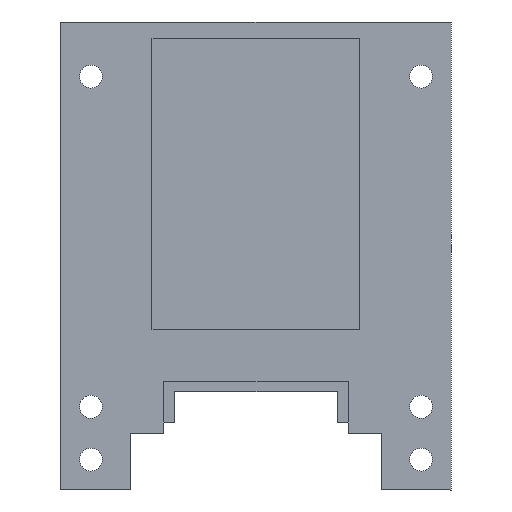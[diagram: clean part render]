
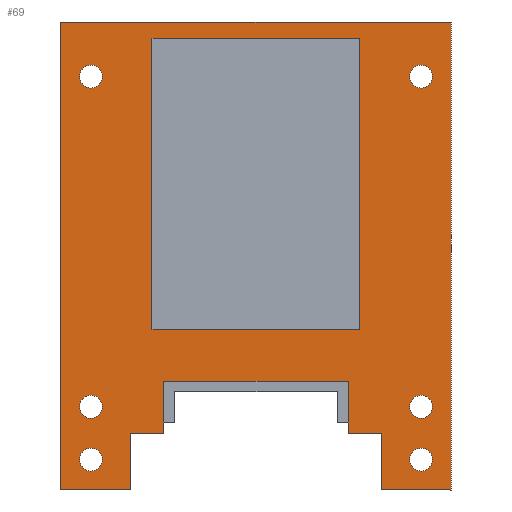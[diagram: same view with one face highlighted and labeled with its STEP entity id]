
A CAD part, front view. The second image highlights one B-rep face of the part: STEP entity #69.
In plain terms, the highlighted planar face has unit normal (0, -1, 0).
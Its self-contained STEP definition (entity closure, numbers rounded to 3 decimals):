
#69=ADVANCED_FACE('',(#181,#182,#183,#184,#185,#186,#187,#125),#565,.T.);
#125=FACE_OUTER_BOUND('',#204,.F.);
#181=FACE_BOUND('',#197,.F.);
#182=FACE_BOUND('',#198,.F.);
#183=FACE_BOUND('',#199,.F.);
#184=FACE_BOUND('',#200,.F.);
#185=FACE_BOUND('',#201,.F.);
#186=FACE_BOUND('',#202,.F.);
#187=FACE_BOUND('',#203,.F.);
#197=EDGE_LOOP('',(#269,#270));
#198=EDGE_LOOP('',(#271,#272));
#199=EDGE_LOOP('',(#273,#274));
#200=EDGE_LOOP('',(#275,#276));
#201=EDGE_LOOP('',(#277,#278));
#202=EDGE_LOOP('',(#279,#280));
#203=EDGE_LOOP('',(#281,#282,#283,#284));
#204=EDGE_LOOP('',(#285,#286,#287,#288,#289,#290,#291,#292,#293,#294,#295,
#296));
#269=ORIENTED_EDGE('',*,*,#850,.T.);
#270=ORIENTED_EDGE('',*,*,#848,.T.);
#271=ORIENTED_EDGE('',*,*,#858,.T.);
#272=ORIENTED_EDGE('',*,*,#856,.T.);
#273=ORIENTED_EDGE('',*,*,#866,.T.);
#274=ORIENTED_EDGE('',*,*,#864,.T.);
#275=ORIENTED_EDGE('',*,*,#870,.T.);
#276=ORIENTED_EDGE('',*,*,#868,.T.);
#277=ORIENTED_EDGE('',*,*,#862,.T.);
#278=ORIENTED_EDGE('',*,*,#860,.T.);
#279=ORIENTED_EDGE('',*,*,#854,.T.);
#280=ORIENTED_EDGE('',*,*,#852,.T.);
#281=ORIENTED_EDGE('',*,*,#833,.T.);
#282=ORIENTED_EDGE('',*,*,#834,.T.);
#283=ORIENTED_EDGE('',*,*,#835,.T.);
#284=ORIENTED_EDGE('',*,*,#832,.T.);
#285=ORIENTED_EDGE('',*,*,#872,.T.);
#286=ORIENTED_EDGE('',*,*,#883,.T.);
#287=ORIENTED_EDGE('',*,*,#882,.T.);
#288=ORIENTED_EDGE('',*,*,#881,.T.);
#289=ORIENTED_EDGE('',*,*,#880,.T.);
#290=ORIENTED_EDGE('',*,*,#879,.T.);
#291=ORIENTED_EDGE('',*,*,#878,.T.);
#292=ORIENTED_EDGE('',*,*,#877,.T.);
#293=ORIENTED_EDGE('',*,*,#876,.T.);
#294=ORIENTED_EDGE('',*,*,#875,.T.);
#295=ORIENTED_EDGE('',*,*,#874,.T.);
#296=ORIENTED_EDGE('',*,*,#873,.T.);
#565=PLANE('',#1343);
#799=CIRCLE('',#1319,1.1);
#801=CIRCLE('',#1321,1.1);
#803=CIRCLE('',#1323,1.1);
#805=CIRCLE('',#1325,1.1);
#807=CIRCLE('',#1327,1.1);
#809=CIRCLE('',#1329,1.1);
#811=CIRCLE('',#1331,1.1);
#813=CIRCLE('',#1333,1.1);
#815=CIRCLE('',#1335,1.1);
#817=CIRCLE('',#1337,1.1);
#819=CIRCLE('',#1339,1.1);
#821=CIRCLE('',#1341,1.1);
#832=EDGE_CURVE('',#1307,#1306,#980,.T.);
#833=EDGE_CURVE('',#1306,#1305,#981,.T.);
#834=EDGE_CURVE('',#1305,#1304,#982,.T.);
#835=EDGE_CURVE('',#1304,#1307,#983,.T.);
#848=EDGE_CURVE('',#1291,#1290,#799,.T.);
#850=EDGE_CURVE('',#1290,#1291,#801,.T.);
#852=EDGE_CURVE('',#1287,#1286,#803,.T.);
#854=EDGE_CURVE('',#1286,#1287,#805,.T.);
#856=EDGE_CURVE('',#1283,#1282,#807,.T.);
#858=EDGE_CURVE('',#1282,#1283,#809,.T.);
#860=EDGE_CURVE('',#1279,#1278,#811,.T.);
#862=EDGE_CURVE('',#1278,#1279,#813,.T.);
#864=EDGE_CURVE('',#1275,#1274,#815,.T.);
#866=EDGE_CURVE('',#1274,#1275,#817,.T.);
#868=EDGE_CURVE('',#1271,#1270,#819,.T.);
#870=EDGE_CURVE('',#1270,#1271,#821,.T.);
#872=EDGE_CURVE('',#1267,#1266,#996,.T.);
#873=EDGE_CURVE('',#1265,#1267,#997,.T.);
#874=EDGE_CURVE('',#1264,#1265,#998,.T.);
#875=EDGE_CURVE('',#1263,#1264,#999,.T.);
#876=EDGE_CURVE('',#1262,#1263,#1000,.T.);
#877=EDGE_CURVE('',#1261,#1262,#1001,.T.);
#878=EDGE_CURVE('',#1260,#1261,#1002,.T.);
#879=EDGE_CURVE('',#1259,#1260,#1003,.T.);
#880=EDGE_CURVE('',#1258,#1259,#1004,.T.);
#881=EDGE_CURVE('',#1257,#1258,#1005,.T.);
#882=EDGE_CURVE('',#1256,#1257,#1006,.T.);
#883=EDGE_CURVE('',#1266,#1256,#1007,.T.);
#980=LINE('',#1796,#1104);
#981=LINE('',#1797,#1105);
#982=LINE('',#1798,#1106);
#983=LINE('',#1799,#1107);
#996=LINE('',#1836,#1120);
#997=LINE('',#1837,#1121);
#998=LINE('',#1838,#1122);
#999=LINE('',#1839,#1123);
#1000=LINE('',#1840,#1124);
#1001=LINE('',#1841,#1125);
#1002=LINE('',#1842,#1126);
#1003=LINE('',#1843,#1127);
#1004=LINE('',#1844,#1128);
#1005=LINE('',#1845,#1129);
#1006=LINE('',#1846,#1130);
#1007=LINE('',#1847,#1131);
#1104=VECTOR('',#1411,20.);
#1105=VECTOR('',#1412,28.);
#1106=VECTOR('',#1413,20.);
#1107=VECTOR('',#1414,28.);
#1120=VECTOR('',#1475,5.461);
#1121=VECTOR('',#1476,3.19);
#1122=VECTOR('',#1477,5.);
#1123=VECTOR('',#1478,17.75);
#1124=VECTOR('',#1479,5.);
#1125=VECTOR('',#1480,3.19);
#1126=VECTOR('',#1481,5.461);
#1127=VECTOR('',#1482,6.731);
#1128=VECTOR('',#1483,45.);
#1129=VECTOR('',#1484,37.592);
#1130=VECTOR('',#1485,45.);
#1131=VECTOR('',#1486,6.731);
#1256=VERTEX_POINT('',#1726);
#1257=VERTEX_POINT('',#1727);
#1258=VERTEX_POINT('',#1728);
#1259=VERTEX_POINT('',#1729);
#1260=VERTEX_POINT('',#1730);
#1261=VERTEX_POINT('',#1731);
#1262=VERTEX_POINT('',#1732);
#1263=VERTEX_POINT('',#1733);
#1264=VERTEX_POINT('',#1734);
#1265=VERTEX_POINT('',#1735);
#1266=VERTEX_POINT('',#1736);
#1267=VERTEX_POINT('',#1737);
#1270=VERTEX_POINT('',#1740);
#1271=VERTEX_POINT('',#1741);
#1274=VERTEX_POINT('',#1744);
#1275=VERTEX_POINT('',#1745);
#1278=VERTEX_POINT('',#1748);
#1279=VERTEX_POINT('',#1749);
#1282=VERTEX_POINT('',#1752);
#1283=VERTEX_POINT('',#1753);
#1286=VERTEX_POINT('',#1756);
#1287=VERTEX_POINT('',#1757);
#1290=VERTEX_POINT('',#1760);
#1291=VERTEX_POINT('',#1761);
#1304=VERTEX_POINT('',#1774);
#1305=VERTEX_POINT('',#1775);
#1306=VERTEX_POINT('',#1776);
#1307=VERTEX_POINT('',#1777);
#1319=AXIS2_PLACEMENT_3D('',#1812,#1427,#1428);
#1321=AXIS2_PLACEMENT_3D('',#1814,#1431,#1432);
#1323=AXIS2_PLACEMENT_3D('',#1816,#1435,#1436);
#1325=AXIS2_PLACEMENT_3D('',#1818,#1439,#1440);
#1327=AXIS2_PLACEMENT_3D('',#1820,#1443,#1444);
#1329=AXIS2_PLACEMENT_3D('',#1822,#1447,#1448);
#1331=AXIS2_PLACEMENT_3D('',#1824,#1451,#1452);
#1333=AXIS2_PLACEMENT_3D('',#1826,#1455,#1456);
#1335=AXIS2_PLACEMENT_3D('',#1828,#1459,#1460);
#1337=AXIS2_PLACEMENT_3D('',#1830,#1463,#1464);
#1339=AXIS2_PLACEMENT_3D('',#1832,#1467,#1468);
#1341=AXIS2_PLACEMENT_3D('',#1834,#1471,#1472);
#1343=AXIS2_PLACEMENT_3D('',#1935,#1574,#1575);
#1411=DIRECTION('',(1.,0.,0.));
#1412=DIRECTION('',(0.,0.,1.));
#1413=DIRECTION('',(-1.,0.,0.));
#1414=DIRECTION('',(0.,0.,-1.));
#1427=DIRECTION('',(0.,-1.,0.));
#1428=DIRECTION('',(0.,0.,1.));
#1431=DIRECTION('',(0.,-1.,0.));
#1432=DIRECTION('',(0.,0.,-1.));
#1435=DIRECTION('',(0.,-1.,0.));
#1436=DIRECTION('',(0.,0.,1.));
#1439=DIRECTION('',(0.,-1.,0.));
#1440=DIRECTION('',(0.,0.,-1.));
#1443=DIRECTION('',(0.,-1.,0.));
#1444=DIRECTION('',(0.,0.,1.));
#1447=DIRECTION('',(0.,-1.,0.));
#1448=DIRECTION('',(0.,0.,-1.));
#1451=DIRECTION('',(0.,-1.,0.));
#1452=DIRECTION('',(0.,0.,1.));
#1455=DIRECTION('',(0.,-1.,0.));
#1456=DIRECTION('',(0.,0.,-1.));
#1459=DIRECTION('',(0.,-1.,0.));
#1460=DIRECTION('',(0.,0.,1.));
#1463=DIRECTION('',(0.,-1.,0.));
#1464=DIRECTION('',(0.,0.,-1.));
#1467=DIRECTION('',(0.,-1.,0.));
#1468=DIRECTION('',(0.,0.,1.));
#1471=DIRECTION('',(0.,-1.,0.));
#1472=DIRECTION('',(0.,0.,-1.));
#1475=DIRECTION('',(0.,0.,-1.));
#1476=DIRECTION('',(-1.,0.,0.));
#1477=DIRECTION('',(0.,0.,-1.));
#1478=DIRECTION('',(-1.,0.,0.));
#1479=DIRECTION('',(0.,0.,1.));
#1480=DIRECTION('',(-1.,0.,0.));
#1481=DIRECTION('',(0.,0.,1.));
#1482=DIRECTION('',(-1.,0.,0.));
#1483=DIRECTION('',(0.,0.,-1.));
#1484=DIRECTION('',(1.,0.,0.));
#1485=DIRECTION('',(0.,0.,1.));
#1486=DIRECTION('',(-1.,0.,0.));
#1574=DIRECTION('',(0.,-1.,0.));
#1575=DIRECTION('',(-1.,0.,0.));
#1726=CARTESIAN_POINT('',(-18.796,-203.249,87.683));
#1727=CARTESIAN_POINT('',(-18.796,-203.249,132.683));
#1728=CARTESIAN_POINT('',(18.796,-203.249,132.683));
#1729=CARTESIAN_POINT('',(18.796,-203.249,87.683));
#1730=CARTESIAN_POINT('',(12.065,-203.249,87.683));
#1731=CARTESIAN_POINT('',(12.065,-203.249,93.144));
#1732=CARTESIAN_POINT('',(8.875,-203.249,93.144));
#1733=CARTESIAN_POINT('',(8.875,-203.249,98.144));
#1734=CARTESIAN_POINT('',(-8.875,-203.249,98.144));
#1735=CARTESIAN_POINT('',(-8.875,-203.249,93.144));
#1736=CARTESIAN_POINT('',(-12.065,-203.249,87.683));
#1737=CARTESIAN_POINT('',(-12.065,-203.249,93.144));
#1740=CARTESIAN_POINT('',(15.875,-203.249,89.504));
#1741=CARTESIAN_POINT('',(15.875,-203.249,91.704));
#1744=CARTESIAN_POINT('',(15.875,-203.249,94.584));
#1745=CARTESIAN_POINT('',(15.875,-203.249,96.784));
#1748=CARTESIAN_POINT('',(-15.875,-203.249,94.584));
#1749=CARTESIAN_POINT('',(-15.875,-203.249,96.784));
#1752=CARTESIAN_POINT('',(-15.875,-203.249,89.504));
#1753=CARTESIAN_POINT('',(-15.875,-203.249,91.704));
#1756=CARTESIAN_POINT('',(-15.875,-203.249,126.334));
#1757=CARTESIAN_POINT('',(-15.875,-203.249,128.534));
#1760=CARTESIAN_POINT('',(15.875,-203.249,126.334));
#1761=CARTESIAN_POINT('',(15.875,-203.249,128.534));
#1774=CARTESIAN_POINT('',(-10.,-203.249,131.144));
#1775=CARTESIAN_POINT('',(10.,-203.249,131.144));
#1776=CARTESIAN_POINT('',(10.,-203.249,103.144));
#1777=CARTESIAN_POINT('',(-10.,-203.249,103.144));
#1796=CARTESIAN_POINT('',(-10.,-203.249,103.144));
#1797=CARTESIAN_POINT('',(10.,-203.249,103.144));
#1798=CARTESIAN_POINT('',(10.,-203.249,131.144));
#1799=CARTESIAN_POINT('',(-10.,-203.249,131.144));
#1812=CARTESIAN_POINT('',(15.875,-203.249,127.434));
#1814=CARTESIAN_POINT('',(15.875,-203.249,127.434));
#1816=CARTESIAN_POINT('',(-15.875,-203.249,127.434));
#1818=CARTESIAN_POINT('',(-15.875,-203.249,127.434));
#1820=CARTESIAN_POINT('',(-15.875,-203.249,90.604));
#1822=CARTESIAN_POINT('',(-15.875,-203.249,90.604));
#1824=CARTESIAN_POINT('',(-15.875,-203.249,95.684));
#1826=CARTESIAN_POINT('',(-15.875,-203.249,95.684));
#1828=CARTESIAN_POINT('',(15.875,-203.249,95.684));
#1830=CARTESIAN_POINT('',(15.875,-203.249,95.684));
#1832=CARTESIAN_POINT('',(15.875,-203.249,90.604));
#1834=CARTESIAN_POINT('',(15.875,-203.249,90.604));
#1836=CARTESIAN_POINT('',(-12.065,-203.249,93.144));
#1837=CARTESIAN_POINT('',(-8.875,-203.249,93.144));
#1838=CARTESIAN_POINT('',(-8.875,-203.249,98.144));
#1839=CARTESIAN_POINT('',(8.875,-203.249,98.144));
#1840=CARTESIAN_POINT('',(8.875,-203.249,93.144));
#1841=CARTESIAN_POINT('',(12.065,-203.249,93.144));
#1842=CARTESIAN_POINT('',(12.065,-203.249,87.683));
#1843=CARTESIAN_POINT('',(18.796,-203.249,87.683));
#1844=CARTESIAN_POINT('',(18.796,-203.249,132.683));
#1845=CARTESIAN_POINT('',(-18.796,-203.249,132.683));
#1846=CARTESIAN_POINT('',(-18.796,-203.249,87.683));
#1847=CARTESIAN_POINT('',(-12.065,-203.249,87.683));
#1935=CARTESIAN_POINT('',(19.246,-203.249,133.133));
